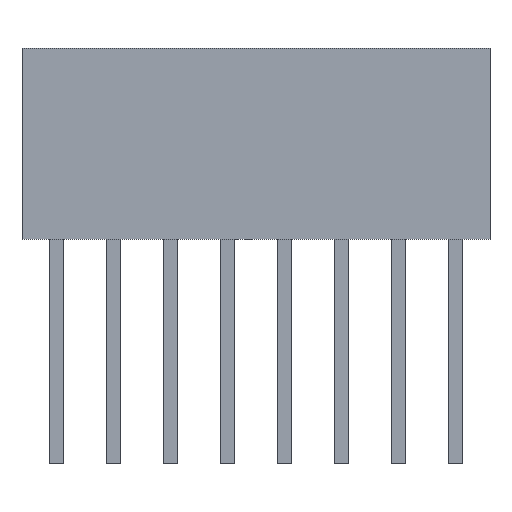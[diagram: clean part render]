
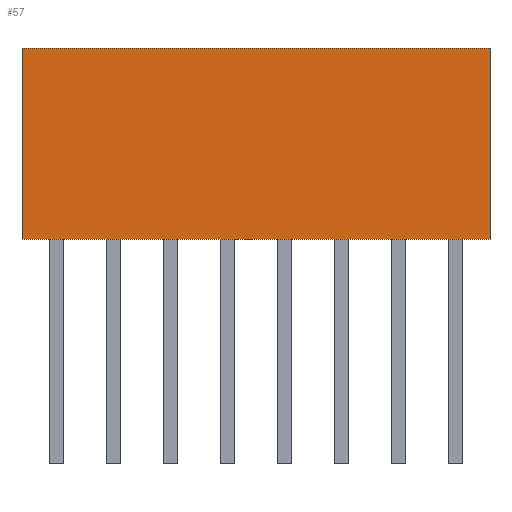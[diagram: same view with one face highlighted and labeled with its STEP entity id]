
A CAD part, front view. The second image highlights one B-rep face of the part: STEP entity #57.
In plain terms, the highlighted planar face has unit normal (0, -1, 0).
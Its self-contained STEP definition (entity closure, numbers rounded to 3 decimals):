
#21 = EDGE_CURVE('',#22,#24,#26,.T.);
#22 = VERTEX_POINT('',#23);
#23 = CARTESIAN_POINT('',(67.081,-3.732,0.));
#24 = VERTEX_POINT('',#25);
#25 = CARTESIAN_POINT('',(67.081,-3.732,8.51));
#26 = LINE('',#27,#28);
#27 = CARTESIAN_POINT('',(67.081,-3.732,0.));
#28 = VECTOR('',#29,1.);
#29 = DIRECTION('',(0.,0.,1.));
#57 = ADVANCED_FACE('',(#58),#83,.F.);
#58 = FACE_BOUND('',#59,.F.);
#59 = EDGE_LOOP('',(#60,#68,#69,#77));
#60 = ORIENTED_EDGE('',*,*,#61,.F.);
#61 = EDGE_CURVE('',#22,#62,#64,.T.);
#62 = VERTEX_POINT('',#63);
#63 = CARTESIAN_POINT('',(87.911,-3.732,0.));
#64 = LINE('',#65,#66);
#65 = CARTESIAN_POINT('',(67.081,-3.732,0.));
#66 = VECTOR('',#67,1.);
#67 = DIRECTION('',(1.,0.,-0.));
#68 = ORIENTED_EDGE('',*,*,#21,.T.);
#69 = ORIENTED_EDGE('',*,*,#70,.T.);
#70 = EDGE_CURVE('',#24,#71,#73,.T.);
#71 = VERTEX_POINT('',#72);
#72 = CARTESIAN_POINT('',(87.911,-3.732,8.51));
#73 = LINE('',#74,#75);
#74 = CARTESIAN_POINT('',(67.081,-3.732,8.51));
#75 = VECTOR('',#76,1.);
#76 = DIRECTION('',(1.,0.,-0.));
#77 = ORIENTED_EDGE('',*,*,#78,.F.);
#78 = EDGE_CURVE('',#62,#71,#79,.T.);
#79 = LINE('',#80,#81);
#80 = CARTESIAN_POINT('',(87.911,-3.732,0.));
#81 = VECTOR('',#82,1.);
#82 = DIRECTION('',(0.,0.,1.));
#83 = PLANE('',#84);
#84 = AXIS2_PLACEMENT_3D('',#85,#86,#87);
#85 = CARTESIAN_POINT('',(67.081,-3.732,0.));
#86 = DIRECTION('',(-0.,1.,0.));
#87 = DIRECTION('',(0.,0.,1.));
